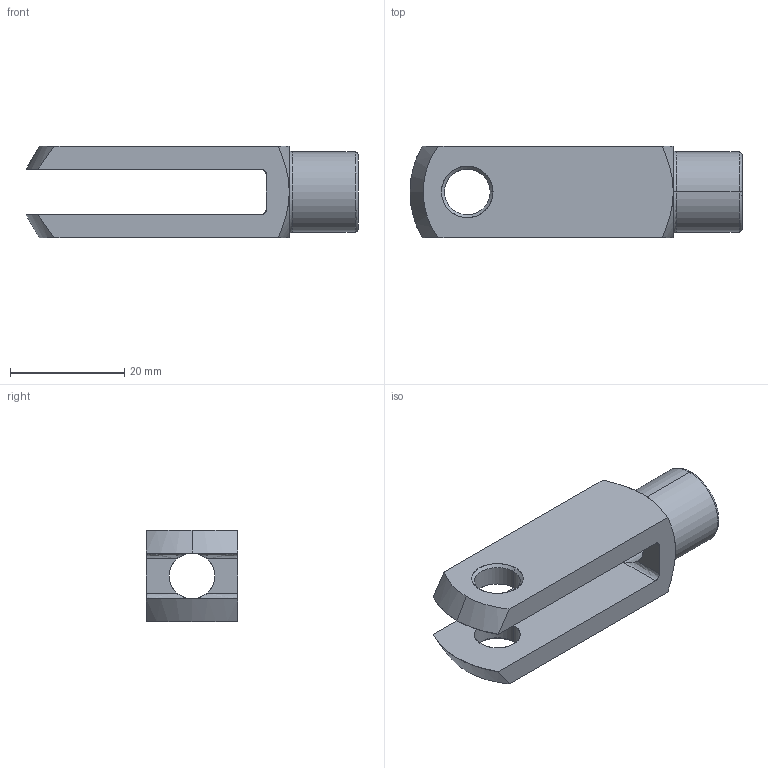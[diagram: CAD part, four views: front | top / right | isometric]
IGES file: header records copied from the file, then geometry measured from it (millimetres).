
Start section: SolidWorks IGES file using analytic representation for surfaces
Global section: file name: C:\Documents and Settings\IANO\My Documents\Wix and Auto CAD Work\CAD Models\Parametric Models\Wix Models\60000\65635_v2\65635_v2_IGES\65635.W0083.igs; native system: SolidWorks 2009; preprocessor: SolidWorks 2009; author: IANO; date: 140117.130452; units: millimetre
Bounding box: 58 x 16 x 16 mm (x, y, z)
Surface area: 4720 mm2 (no closed solid volume)
Topology: 0 solids, 0 shells, 39 faces, 584 edges, 584 vertices
Faces by surface type: revolution 25, bspline 14
